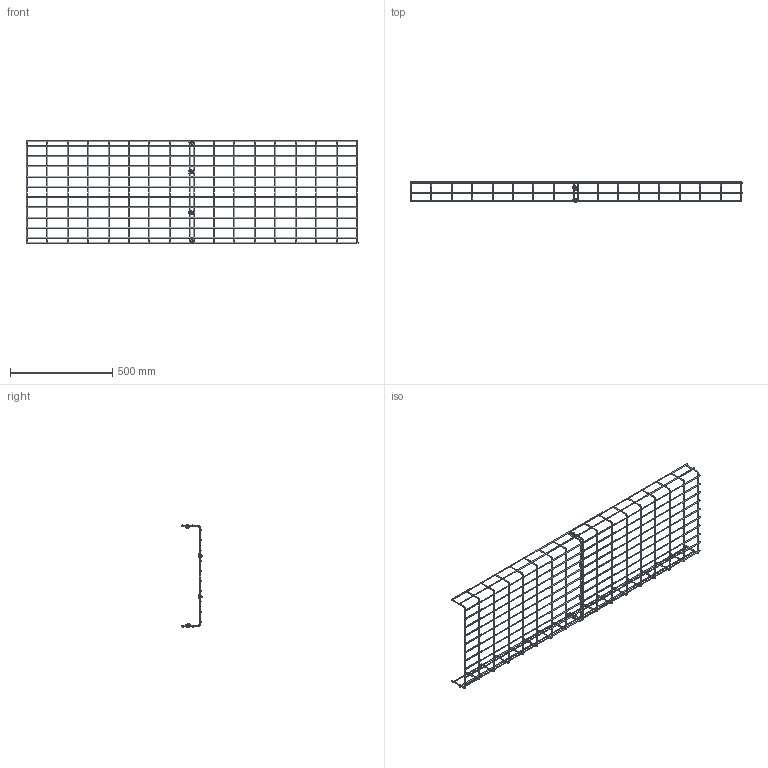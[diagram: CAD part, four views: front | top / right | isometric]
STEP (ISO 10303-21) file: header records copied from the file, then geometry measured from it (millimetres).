
FILE_DESCRIPTION (( 'STEP AP214' ), '1' );
FILE_NAME ('083.STEP', '2016-11-29T09:03:56', ( '' ), ( '' ), 'SwSTEP 2.0', 'SolidWorks 2016', '' );
FILE_SCHEMA (( 'AUTOMOTIVE_DESIGN' ));
Length unit declared in the file: millimetre
Products named in the file (21): ïðîäîëüíàÿ ëàãà_d5,0 L=3040; Ãàéêà ñ áóðòèêîì Ì6 DIN 6923; ïðîâ_ëîòêè H-85õB-500 ÏËÌÓ; ïðîäîëüíàÿ ëàãà_d5,0 L=3032; ïðîäîëüíàÿ ëàãà_d5,0 L=3043; ïðîäîëüíàÿ ëàãà_d5,0 L=3034; 旆侐20_閮鉈狙; ïðîäîëüíàÿ ëàãà_d5,0 L=3037; Âèíò Ì6-16 DIN 603_ISO 8678-M6x16-11-N; ïðîäîëüíàÿ ëàãà_d5,0 L=3030; 严宋20_耜钺郷憦嫀20; ïðîäîëüíàÿ ëàãà_d5,0 L=3036; ïðîäîëüíàÿ ëàãà_d5,0 L=3042; ïðîäîëüíàÿ ëàãà_d5,0 L=3039; ïðîäîëüíàÿ ëàãà_d5,0 L=3035; ïðîäîëüíàÿ ëàãà_d5,0 L=3038; ïðîäîëüíàÿ ëàãà_d5,0 L=3031; ïðîäîëüíàÿ ëàãà_d5,0 L=3033; ïðîäîëüíàÿ ëàãà_d5,0 L=3041; äóãà 85 d4-5 øèðèíà 200-600_85õ500-5,0; 083
Assembly tree (33 placements, depth 3):
  083
    ïðîâ_ëîòêè H-85õB-500 ÏËÌÓ  x2
      ïðîäîëüíàÿ ëàãà_d5,0 L=3040
      ïðîäîëüíàÿ ëàãà_d5,0 L=3037
      äóãà 85 d4-5 øèðèíà 200-600_85õ500-5,0
      ïðîäîëüíàÿ ëàãà_d5,0 L=3033
      ïðîäîëüíàÿ ëàãà_d5,0 L=3036
      ïðîäîëüíàÿ ëàãà_d5,0 L=3041
      ïðîäîëüíàÿ ëàãà_d5,0 L=3039
      ïðîäîëüíàÿ ëàãà_d5,0 L=3038
      ïðîäîëüíàÿ ëàãà_d5,0 L=3031
      ïðîäîëüíàÿ ëàãà_d5,0 L=3030
      ïðîäîëüíàÿ ëàãà_d5,0 L=3035
      ïðîäîëüíàÿ ëàãà_d5,0 L=3034
      ïðîäîëüíàÿ ëàãà_d5,0 L=3042
      ïðîäîëüíàÿ ëàãà_d5,0 L=3032
      ïðîäîëüíàÿ ëàãà_d5,0 L=3043
    旆侐20_閮鉈狙  x4
      严宋20_耜钺郷憦嫀20
      Ãàéêà ñ áóðòèêîì Ì6 DIN 6923
      Âèíò Ì6-16 DIN 603_ISO 8678-M6x16-11-N
Bounding box: 1625 x 98.83 x 507.19 mm (x, y, z)
Volume: 689861.1 mm3; surface area: 556672.1 mm2
Topology: 62 solids, 62 shells, 896 faces, 1984 edges, 1184 vertices
Faces by surface type: plane 356, cylinder 292, bspline 128, cone 76, torus 36, sphere 8
Entity records: 5905 total; most frequent: CARTESIAN_POINT 1431, DIRECTION 825, ORIENTED_EDGE 694, EDGE_CURVE 347, AXIS2_PLACEMENT_3D 346, VERTEX_POINT 212, EDGE_LOOP 177, FACE_OUTER_BOUND 172
